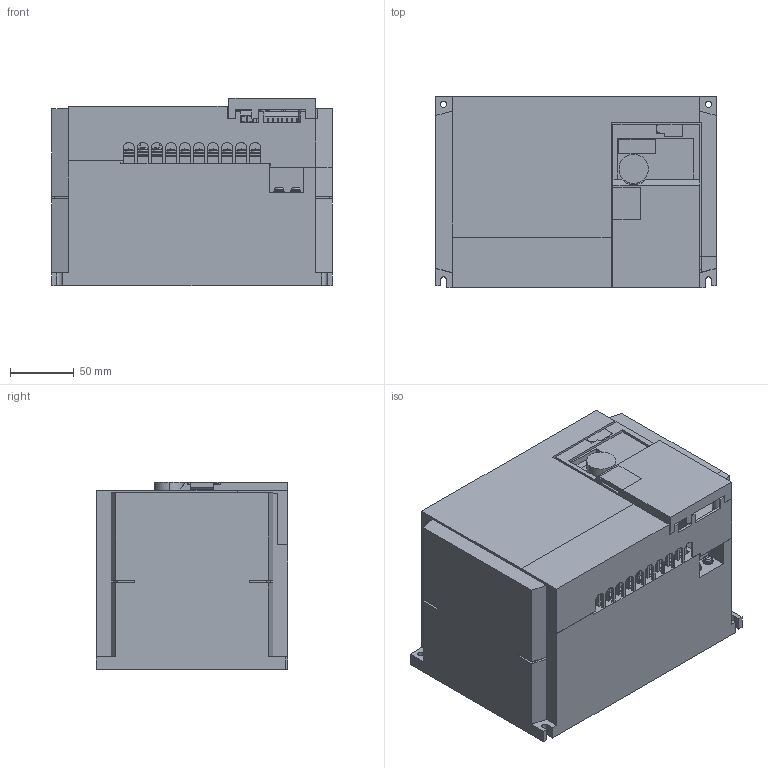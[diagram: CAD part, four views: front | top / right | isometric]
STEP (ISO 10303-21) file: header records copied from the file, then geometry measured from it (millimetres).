
FILE_DESCRIPTION((''),'2;1');
FILE_NAME('3D-INV-22_14_ASM','2010-09-06T',('HW41538'),(''),'PRO/ENGINEER BY PARAMETRIC TECHNOLOGY CORPORATION, 2006420','PRO/ENGINEER BY PARAMETRIC TECHNOLOGY CORPORATION, 2006420','');
FILE_SCHEMA(('CONFIG_CONTROL_DESIGN'));
Length unit declared in the file: millimetre
Products named in the file (16): 3D-BASE-22_14; 3D-E70-TA; 3D-POWER-22_14_ASM; 3D-FAN_COV-21_15; 3D-FAN-60; 3D-FAN-60_2_ASSY_ASM; 3D-SW-PW-P-NA-M4X8_; 3D-TE_SHORT-22_14; 3D-TE_NEJI-M4X10-ZA9; 3D-TE_NEJI-22_14_ASM; 3D-SEN_COV-22_14; 3D-COV-E7; 3D-IF_COV-E7; 3D-USB_COV-E7; 3D-COV_ASSY-E7_ASM; 3D-INV-22_14_ASM
Assembly tree (26 placements, depth 3):
  3D-INV-22_14_ASM
    3D-POWER-22_14_ASM
      3D-BASE-22_14
      3D-E70-TA
    3D-FAN-60_2_ASSY_ASM
      3D-FAN_COV-21_15
      3D-FAN-60  x2
    3D-SW-PW-P-NA-M4X8_  x2
    3D-TE_NEJI-22_14_ASM
      3D-TE_SHORT-22_14
      3D-TE_NEJI-M4X10-ZA9  x10
    3D-SEN_COV-22_14
    3D-COV_ASSY-E7_ASM
      3D-COV-E7
      3D-IF_COV-E7
      3D-USB_COV-E7
Bounding box: 220 x 150 x 146.9 mm (x, y, z)
Volume: 4181126 mm3; surface area: 331002.9 mm2
Topology: 22 solids, 22 shells, 1189 faces, 3133 edges, 2050 vertices
Faces by surface type: plane 899, cylinder 212, cone 26, torus 26, sphere 26
Entity records: 31331 total; most frequent: CARTESIAN_POINT 5513, ORIENTED_EDGE 5340, DIRECTION 5115, EDGE_CURVE 2670, VECTOR 2309, LINE 2309, VERTEX_POINT 1769, AXIS2_PLACEMENT_3D 1403
